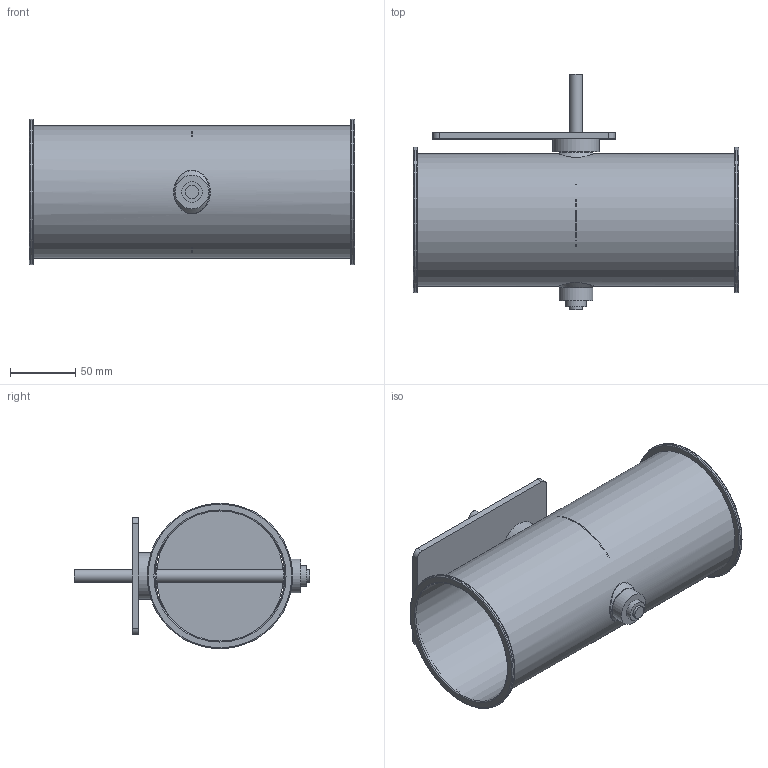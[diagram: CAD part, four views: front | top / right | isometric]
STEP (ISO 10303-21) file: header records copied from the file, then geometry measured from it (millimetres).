
FILE_DESCRIPTION(/* description */ (''),/* implementation_level */ '2;1');
FILE_NAME(/* name */ 'EA120-80B__100_L250_Belimo_Typ_NM.stp',/* time_stamp */ '2017-12-05T13:42:00+01:00',/* author */ (''),/* organization */ (''),/* preprocessor_version */ 'ST-DEVELOPER v11',/* originating_system */ 'SIEMENS UGS NX 6.0',/* authorisation */ '');
FILE_SCHEMA (('CONFIG_CONTROL_DESIGN'));
Length unit declared in the file: millimetre
Products named in the file (1): gars1E3Bhihq
Bounding box: 250 x 181 x 112 mm (x, y, z)
Volume: 175118 mm3; surface area: 223761.6 mm2
Topology: 8 solids, 8 shells, 75 faces, 158 edges, 107 vertices
Faces by surface type: plane 30, cylinder 27, torus 10, cone 4, bspline 4
Full cylindrical faces by diameter (mm): 4.1 x3, 10 x3, 15 x3, 15.85 x2, 16 x2, 24 x2, 26 x1, 36 x1, 100 x1, 101.6 x1, 112 x2
Entity records: 2428 total; most frequent: CARTESIAN_POINT 934, DIRECTION 304, ORIENTED_EDGE 200, EDGE_LOOP 144, AXIS2_PLACEMENT_3D 140, FACE_BOUND 130, EDGE_CURVE 100, VERTEX_POINT 88
